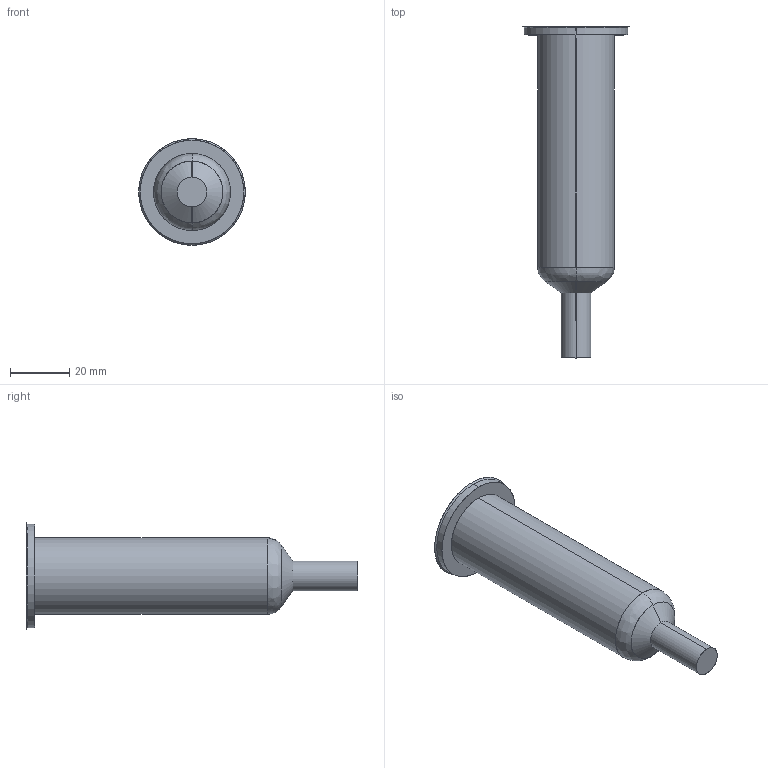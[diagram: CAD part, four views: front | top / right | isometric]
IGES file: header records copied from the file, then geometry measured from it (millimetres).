
Start section: SolidWorks IGES file using analytic representation for surfaces
Global section: file name: C:\Documents and Settings\ws-20\Desktop\TEM\Sede UGEP3152-M-A C-89 L-107 P-25.IGS; native system: SolidWorks 2012; preprocessor: SolidWorks 2012; author: ws-20; date: 120404.085442; units: millimetre
Bounding box: 36 x 112.23 x 36 mm (x, y, z)
Surface area: 9745.7 mm2 (no closed solid volume)
Topology: 0 solids, 0 shells, 15 faces, 240 edges, 240 vertices
Faces by surface type: revolution 10, bspline 5
